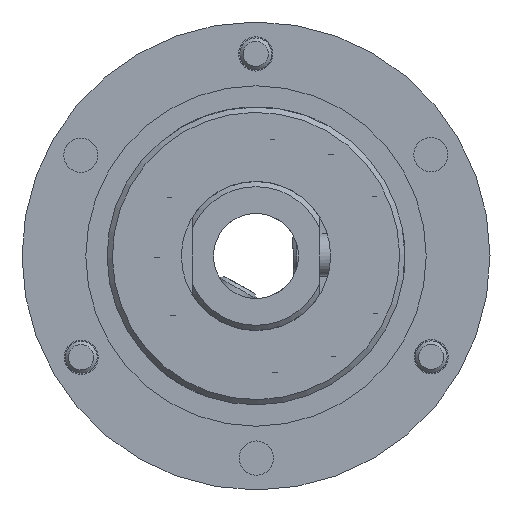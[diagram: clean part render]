
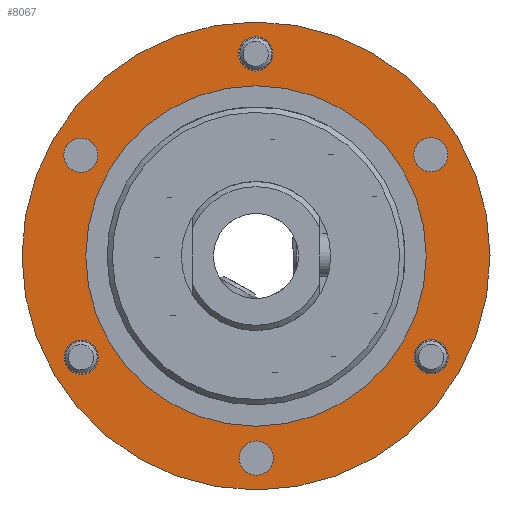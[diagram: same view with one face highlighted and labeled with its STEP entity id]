
A CAD part, front view. The second image highlights one B-rep face of the part: STEP entity #8067.
In plain terms, the highlighted planar face has unit normal (0, -1, 0).
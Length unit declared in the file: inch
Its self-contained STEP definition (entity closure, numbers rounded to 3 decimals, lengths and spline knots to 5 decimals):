
#7839=CARTESIAN_POINT('',(-0.92791,-0.01,-0.59375));
#7840=VERTEX_POINT('',#7839);
#7841=CARTESIAN_POINT('',(-1.02841,-0.01,-0.59375));
#7842=DIRECTION('',(0.0,1.0,0.0));
#7843=DIRECTION('',(-1.0,0.0,0.0));
#7844=AXIS2_PLACEMENT_3D('',#7841,#7842,#7843);
#7845=CIRCLE('',#7844,0.1005);
#7846=EDGE_CURVE('',#7840,#7840,#7845,.T.);
#7867=CARTESIAN_POINT('',(1.12891,-0.01,-0.59375));
#7868=VERTEX_POINT('',#7867);
#7869=CARTESIAN_POINT('',(1.02841,-0.01,-0.59375));
#7870=DIRECTION('',(0.0,1.0,0.0));
#7871=DIRECTION('',(-1.0,0.0,0.0));
#7872=AXIS2_PLACEMENT_3D('',#7869,#7870,#7871);
#7873=CIRCLE('',#7872,0.1005);
#7874=EDGE_CURVE('',#7868,#7868,#7873,.T.);
#7895=CARTESIAN_POINT('',(0.1005,-0.01,1.1875));
#7896=VERTEX_POINT('',#7895);
#7897=CARTESIAN_POINT('',(0.,-0.01,1.1875));
#7898=DIRECTION('',(0.0,1.0,0.0));
#7899=DIRECTION('',(-1.0,0.0,0.0));
#7900=AXIS2_PLACEMENT_3D('',#7897,#7898,#7899);
#7901=CIRCLE('',#7900,0.1005);
#7902=EDGE_CURVE('',#7896,#7896,#7901,.T.);
#7923=CARTESIAN_POINT('',(-0.92791,-0.01,0.59375));
#7924=VERTEX_POINT('',#7923);
#7925=CARTESIAN_POINT('',(-1.02841,-0.01,0.59375));
#7926=DIRECTION('',(0.0,1.0,0.0));
#7927=DIRECTION('',(-1.0,0.0,0.0));
#7928=AXIS2_PLACEMENT_3D('',#7925,#7926,#7927);
#7929=CIRCLE('',#7928,0.1005);
#7930=EDGE_CURVE('',#7924,#7924,#7929,.T.);
#7951=CARTESIAN_POINT('',(1.12891,-0.01,0.59375));
#7952=VERTEX_POINT('',#7951);
#7953=CARTESIAN_POINT('',(1.02841,-0.01,0.59375));
#7954=DIRECTION('',(0.0,1.0,0.0));
#7955=DIRECTION('',(-1.0,0.0,0.0));
#7956=AXIS2_PLACEMENT_3D('',#7953,#7954,#7955);
#7957=CIRCLE('',#7956,0.1005);
#7958=EDGE_CURVE('',#7952,#7952,#7957,.T.);
#7979=CARTESIAN_POINT('',(0.1005,-0.01,-1.1875));
#7980=VERTEX_POINT('',#7979);
#7981=CARTESIAN_POINT('',(0.,-0.01,-1.1875));
#7982=DIRECTION('',(0.0,1.0,0.0));
#7983=DIRECTION('',(-1.0,0.0,0.0));
#7984=AXIS2_PLACEMENT_3D('',#7981,#7982,#7983);
#7985=CIRCLE('',#7984,0.1005);
#7986=EDGE_CURVE('',#7980,#7980,#7985,.T.);
#8007=CARTESIAN_POINT('',(1.375,-0.01,0.0));
#8008=VERTEX_POINT('',#8007);
#8009=CARTESIAN_POINT('',(0.,-0.01,0.0));
#8010=DIRECTION('',(0.0,-1.0,0.0));
#8011=DIRECTION('',(1.0,0.0,0.0));
#8012=AXIS2_PLACEMENT_3D('',#8009,#8010,#8011);
#8013=CIRCLE('',#8012,1.375);
#8014=EDGE_CURVE('',#8008,#8008,#8013,.T.);
#8030=CARTESIAN_POINT('',(0.92575,-0.01,0.0));
#8031=DIRECTION('',(0.0,-1.0,0.0));
#8032=DIRECTION('',(0.0,0.0,-1.0));
#8033=AXIS2_PLACEMENT_3D('',#8030,#8031,#8032);
#8034=PLANE('',#8033);
#8035=ORIENTED_EDGE('',*,*,#8014,.T.);
#8036=EDGE_LOOP('',(#8035));
#8037=FACE_OUTER_BOUND('',#8036,.T.);
#8038=ORIENTED_EDGE('',*,*,#7846,.T.);
#8039=EDGE_LOOP('',(#8038));
#8040=FACE_BOUND('',#8039,.T.);
#8041=ORIENTED_EDGE('',*,*,#7874,.T.);
#8042=EDGE_LOOP('',(#8041));
#8043=FACE_BOUND('',#8042,.T.);
#8044=ORIENTED_EDGE('',*,*,#7902,.T.);
#8045=EDGE_LOOP('',(#8044));
#8046=FACE_BOUND('',#8045,.T.);
#8047=ORIENTED_EDGE('',*,*,#7930,.T.);
#8048=EDGE_LOOP('',(#8047));
#8049=FACE_BOUND('',#8048,.T.);
#8050=ORIENTED_EDGE('',*,*,#7958,.T.);
#8051=EDGE_LOOP('',(#8050));
#8052=FACE_BOUND('',#8051,.T.);
#8053=ORIENTED_EDGE('',*,*,#7986,.T.);
#8054=EDGE_LOOP('',(#8053));
#8055=FACE_BOUND('',#8054,.T.);
#8056=CARTESIAN_POINT('',(0.4765,-0.01,0.0));
#8057=VERTEX_POINT('',#8056);
#8058=CARTESIAN_POINT('',(0.,-0.01,0.0));
#8059=DIRECTION('',(0.0,-1.0,0.0));
#8060=DIRECTION('',(1.0,0.0,0.0));
#8061=AXIS2_PLACEMENT_3D('',#8058,#8059,#8060);
#8062=CIRCLE('',#8061,0.4765);
#8063=EDGE_CURVE('',#8057,#8057,#8062,.T.);
#8064=ORIENTED_EDGE('',*,*,#8063,.F.);
#8065=EDGE_LOOP('',(#8064));
#8066=FACE_BOUND('',#8065,.T.);
#8067=ADVANCED_FACE('',(#8037,#8040,#8043,#8046,#8049,#8052,#8055,#8066),#8034,.T.);
